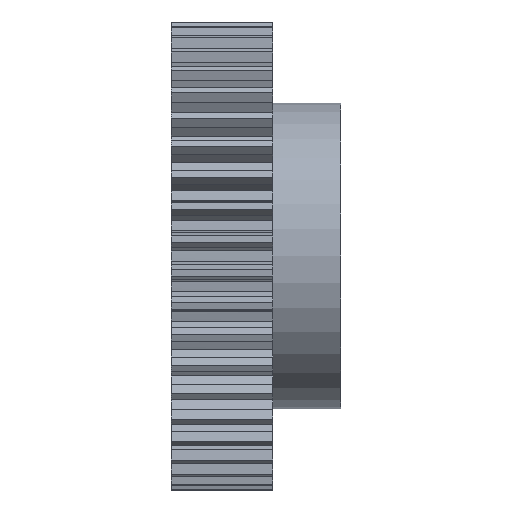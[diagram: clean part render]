
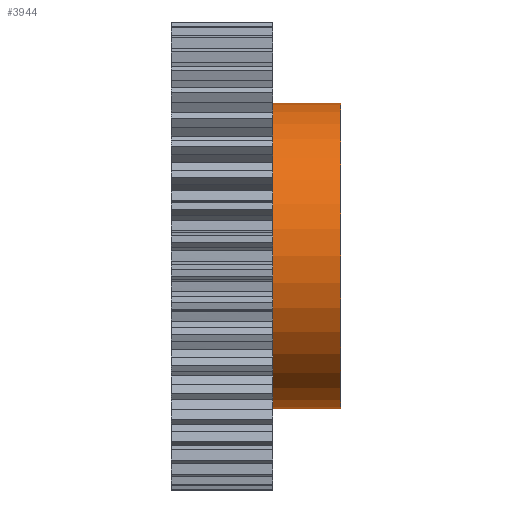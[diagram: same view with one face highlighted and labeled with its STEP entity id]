
A CAD part, front view. The second image highlights one B-rep face of the part: STEP entity #3944.
In plain terms, the highlighted cylindrical face has radius 45 mm (diameter 90 mm), a partial arc.
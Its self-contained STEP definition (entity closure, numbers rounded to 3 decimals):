
#25 = EDGE_CURVE ( 'NONE', #4163, #3601, #4599, .T. ) ;
#45 = EDGE_CURVE ( 'NONE', #3726, #3631, #4592, .T. ) ;
#326 = CARTESIAN_POINT ( 'NONE',  ( 35., 0., -45. ) ) ;
#2663 = ORIENTED_EDGE ( 'NONE', *, *, #45, .T. ) ;
#2665 = EDGE_LOOP ( 'NONE', ( #3753, #3941, #3925, #2663 ) ) ;
#3601 = VERTEX_POINT ( 'NONE', #8237 ) ;
#3613 = EDGE_CURVE ( 'NONE', #4163, #3631, #8300, .T. ) ;
#3622 = EDGE_CURVE ( 'NONE', #3601, #3726, #8278, .T. ) ;
#3631 = VERTEX_POINT ( 'NONE', #8288 ) ;
#3726 = VERTEX_POINT ( 'NONE', #8421 ) ;
#3753 = ORIENTED_EDGE ( 'NONE', *, *, #3613, .F. ) ;
#3925 = ORIENTED_EDGE ( 'NONE', *, *, #3622, .T. ) ;
#3941 = ORIENTED_EDGE ( 'NONE', *, *, #25, .T. ) ;
#3944 = ADVANCED_FACE ( 'NONE', ( #8806 ), #8850, .T. ) ;
#4163 = VERTEX_POINT ( 'NONE', #326 ) ;
#4567 = DIRECTION ( 'NONE',  ( -1., 0., 0. ) ) ;
#4592 = CIRCLE ( 'NONE', #4611, 45. ) ;
#4596 = DIRECTION ( 'NONE',  ( 0., 0., 1. ) ) ;
#4599 = CIRCLE ( 'NONE', #4605, 45. ) ;
#4605 = AXIS2_PLACEMENT_3D ( 'NONE', #4608, #4567, #4596 ) ;
#4608 = CARTESIAN_POINT ( 'NONE',  ( 35., 0., 0. ) ) ;
#4610 = DIRECTION ( 'NONE',  ( 1., 0., 0. ) ) ;
#4611 = AXIS2_PLACEMENT_3D ( 'NONE', #4614, #4610, #4658 ) ;
#4614 = CARTESIAN_POINT ( 'NONE',  ( 15., 0., 0. ) ) ;
#4658 = DIRECTION ( 'NONE',  ( 0., 0., 1. ) ) ;
#8237 = CARTESIAN_POINT ( 'NONE',  ( 35., 0., 45. ) ) ;
#8277 = CARTESIAN_POINT ( 'NONE',  ( 15., 0., 45. ) ) ;
#8278 = LINE ( 'NONE', #8277, #8322 ) ;
#8288 = CARTESIAN_POINT ( 'NONE',  ( 15., 0., -45. ) ) ;
#8289 = DIRECTION ( 'NONE',  ( -1., 0., 0. ) ) ;
#8290 = VECTOR ( 'NONE', #8289, 1000. ) ;
#8291 = CARTESIAN_POINT ( 'NONE',  ( 15., 0., -45. ) ) ;
#8300 = LINE ( 'NONE', #8291, #8290 ) ;
#8321 = DIRECTION ( 'NONE',  ( -1., 0., 0. ) ) ;
#8322 = VECTOR ( 'NONE', #8321, 1000. ) ;
#8421 = CARTESIAN_POINT ( 'NONE',  ( 15., 0., 45. ) ) ;
#8805 = CARTESIAN_POINT ( 'NONE',  ( 15., 0., 0. ) ) ;
#8806 = FACE_OUTER_BOUND ( 'NONE', #2665, .T. ) ;
#8833 = DIRECTION ( 'NONE',  ( 0., 0., 1. ) ) ;
#8839 = AXIS2_PLACEMENT_3D ( 'NONE', #8805, #8845, #8833 ) ;
#8845 = DIRECTION ( 'NONE',  ( -1., 0., 0. ) ) ;
#8850 = CYLINDRICAL_SURFACE ( 'NONE', #8839, 45. ) ;
